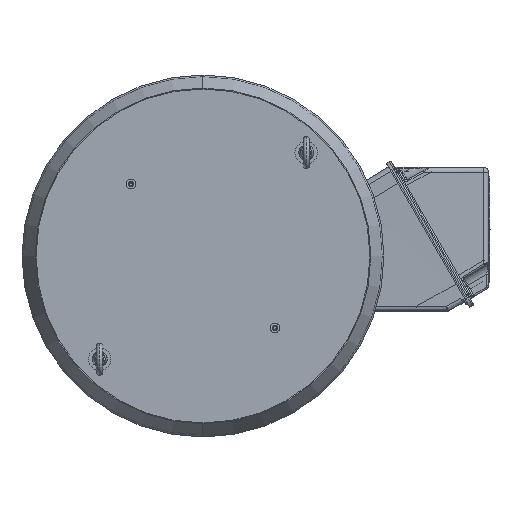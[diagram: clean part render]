
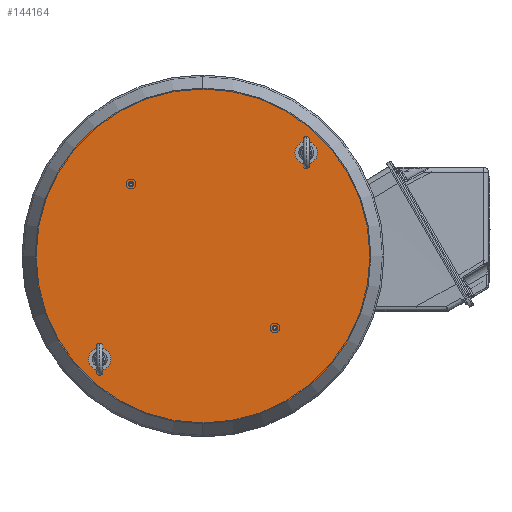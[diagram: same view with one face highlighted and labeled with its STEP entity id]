
A CAD part, top view. The second image highlights one B-rep face of the part: STEP entity #144164.
In plain terms, the highlighted planar face has unit normal (0, 0, 1).
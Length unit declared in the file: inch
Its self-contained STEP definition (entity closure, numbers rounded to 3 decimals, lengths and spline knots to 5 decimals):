
#143897=CARTESIAN_POINT('',(0.,0.,0.88));
#143898=DIRECTION('',(0.,0.,-1.));
#143899=DIRECTION('',(0.,1.,0.));
#143900=AXIS2_PLACEMENT_3D('',#143897,#143898,#143899);
#143902=CARTESIAN_POINT('',(0.,0.,0.88));
#143903=DIRECTION('',(0.,0.,1.));
#143904=DIRECTION('',(0.,1.,0.));
#143905=AXIS2_PLACEMENT_3D('',#143902,#143903,#143904);
#143907=CARTESIAN_POINT('',(4.02167,4.02167,0.88));
#143908=DIRECTION('',(0.,0.,-1.));
#143909=DIRECTION('',(-1.,0.,0.));
#143910=AXIS2_PLACEMENT_3D('',#143907,#143908,#143909);
#143912=CARTESIAN_POINT('',(4.02167,4.02167,0.88));
#143913=DIRECTION('',(0.,0.,-1.));
#143914=DIRECTION('',(1.,0.,0.));
#143915=AXIS2_PLACEMENT_3D('',#143912,#143913,#143914);
#143917=CARTESIAN_POINT('',(-4.02167,-4.02167,0.88));
#143918=DIRECTION('',(0.,0.,-1.));
#143919=DIRECTION('',(-1.,0.,0.));
#143920=AXIS2_PLACEMENT_3D('',#143917,#143918,#143919);
#143922=CARTESIAN_POINT('',(-4.02167,-4.02167,0.88));
#143923=DIRECTION('',(0.,0.,-1.));
#143924=DIRECTION('',(1.,0.,0.));
#143925=AXIS2_PLACEMENT_3D('',#143922,#143923,#143924);
#143927=CARTESIAN_POINT('',(-2.78423,2.78423,0.88));
#143928=DIRECTION('',(0.,0.,-1.));
#143929=DIRECTION('',(-1.,0.,0.));
#143930=AXIS2_PLACEMENT_3D('',#143927,#143928,#143929);
#143932=CARTESIAN_POINT('',(-2.78423,2.78423,0.88));
#143933=DIRECTION('',(0.,0.,-1.));
#143934=DIRECTION('',(1.,0.,0.));
#143935=AXIS2_PLACEMENT_3D('',#143932,#143933,#143934);
#143937=CARTESIAN_POINT('',(2.78423,-2.78423,0.88));
#143938=DIRECTION('',(0.,0.,-1.));
#143939=DIRECTION('',(-1.,0.,0.));
#143940=AXIS2_PLACEMENT_3D('',#143937,#143938,#143939);
#143942=CARTESIAN_POINT('',(2.78423,-2.78423,0.88));
#143943=DIRECTION('',(0.,0.,-1.));
#143944=DIRECTION('',(1.,0.,0.));
#143945=AXIS2_PLACEMENT_3D('',#143942,#143943,#143944);
#144038=CARTESIAN_POINT('',(0.,6.5,0.88));
#144040=VERTEX_POINT('',#144038);
#144042=CARTESIAN_POINT('',(0.,-6.5,0.88));
#144044=VERTEX_POINT('',#144042);
#144053=CARTESIAN_POINT('',(3.83417,4.02167,0.88));
#144054=CARTESIAN_POINT('',(4.20917,4.02167,0.88));
#144055=VERTEX_POINT('',#144053);
#144056=VERTEX_POINT('',#144054);
#144061=CARTESIAN_POINT('',(-4.20917,-4.02167,0.88));
#144062=CARTESIAN_POINT('',(-3.83417,-4.02167,0.88));
#144063=VERTEX_POINT('',#144061);
#144064=VERTEX_POINT('',#144062);
#144069=CARTESIAN_POINT('',(-2.89473,2.78423,0.88));
#144070=CARTESIAN_POINT('',(-2.67373,2.78423,0.88));
#144071=VERTEX_POINT('',#144069);
#144072=VERTEX_POINT('',#144070);
#144077=CARTESIAN_POINT('',(2.67373,-2.78423,0.88));
#144078=CARTESIAN_POINT('',(2.89473,-2.78423,0.88));
#144079=VERTEX_POINT('',#144077);
#144080=VERTEX_POINT('',#144078);
#144131=CARTESIAN_POINT('',(0.,0.,0.88));
#144132=DIRECTION('',(0.,0.,1.));
#144133=DIRECTION('',(0.,1.,0.));
#144134=AXIS2_PLACEMENT_3D('',#144131,#144132,#144133);
#144135=PLANE('',#144134);
#144136=ORIENTED_EDGE('',*,*,#144113,.T.);
#144137=ORIENTED_EDGE('',*,*,#144124,.F.);
#144138=EDGE_LOOP('',(#144136,#144137));
#144139=FACE_OUTER_BOUND('',#144138,.F.);
#144141=ORIENTED_EDGE('',*,*,#144140,.F.);
#144143=ORIENTED_EDGE('',*,*,#144142,.F.);
#144144=EDGE_LOOP('',(#144141,#144143));
#144145=FACE_BOUND('',#144144,.F.);
#144147=ORIENTED_EDGE('',*,*,#144146,.F.);
#144149=ORIENTED_EDGE('',*,*,#144148,.F.);
#144150=EDGE_LOOP('',(#144147,#144149));
#144151=FACE_BOUND('',#144150,.F.);
#144153=ORIENTED_EDGE('',*,*,#144152,.F.);
#144155=ORIENTED_EDGE('',*,*,#144154,.F.);
#144156=EDGE_LOOP('',(#144153,#144155));
#144157=FACE_BOUND('',#144156,.F.);
#144159=ORIENTED_EDGE('',*,*,#144158,.F.);
#144161=ORIENTED_EDGE('',*,*,#144160,.F.);
#144162=EDGE_LOOP('',(#144159,#144161));
#144163=FACE_BOUND('',#144162,.F.);
#144164=ADVANCED_FACE('',(#144139,#144145,#144151,#144157,#144163),#144135,.T.);
#143901=CIRCLE('',#143900,6.5);
#143906=CIRCLE('',#143905,6.5);
#143911=CIRCLE('',#143910,0.1875);
#143916=CIRCLE('',#143915,0.1875);
#143921=CIRCLE('',#143920,0.1875);
#143926=CIRCLE('',#143925,0.1875);
#143931=CIRCLE('',#143930,0.1105);
#143936=CIRCLE('',#143935,0.1105);
#143941=CIRCLE('',#143940,0.1105);
#143946=CIRCLE('',#143945,0.1105);
#144113=EDGE_CURVE('',#144040,#144044,#143901,.T.);
#144124=EDGE_CURVE('',#144040,#144044,#143906,.T.);
#144140=EDGE_CURVE('',#144055,#144056,#143911,.T.);
#144142=EDGE_CURVE('',#144056,#144055,#143916,.T.);
#144146=EDGE_CURVE('',#144063,#144064,#143921,.T.);
#144148=EDGE_CURVE('',#144064,#144063,#143926,.T.);
#144152=EDGE_CURVE('',#144071,#144072,#143931,.T.);
#144154=EDGE_CURVE('',#144072,#144071,#143936,.T.);
#144158=EDGE_CURVE('',#144079,#144080,#143941,.T.);
#144160=EDGE_CURVE('',#144080,#144079,#143946,.T.);
